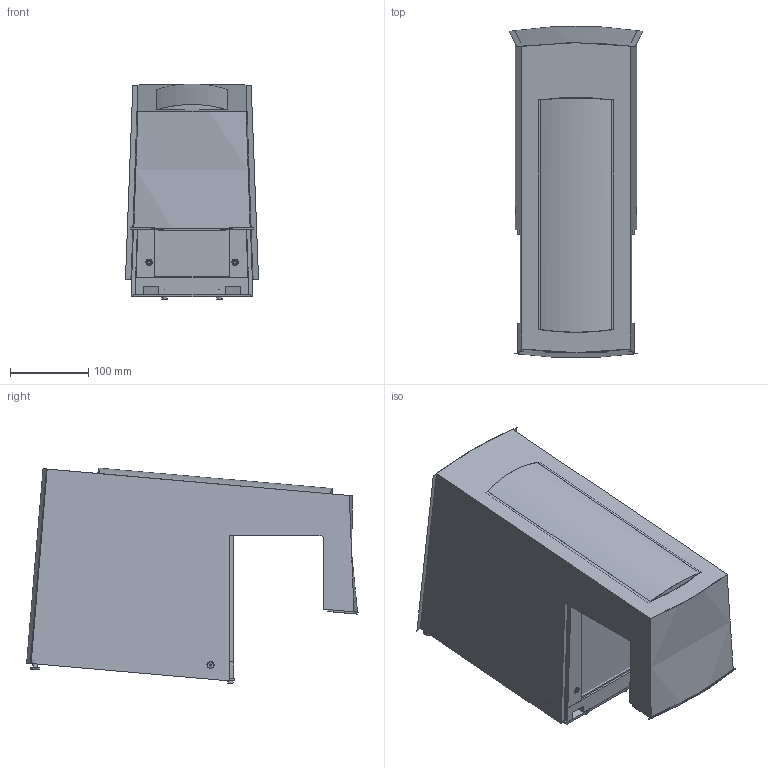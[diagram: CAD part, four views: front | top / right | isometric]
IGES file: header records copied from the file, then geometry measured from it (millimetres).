
Global section: file name: sadfaw.igs; native system: OneSpace Designer 3D IGES; preprocessor: 11.60D  09-Mar-2003; date: 20030618.141739; units: millimetre
Bounding box: 170.5 x 425.37 x 276.52 mm (x, y, z)
Surface area: 892981.7 mm2 (no closed solid volume)
Topology: 0 solids, 0 shells, 2007 faces, 17579 edges, 17579 vertices
Faces by surface type: bspline 1402, revolution 605
